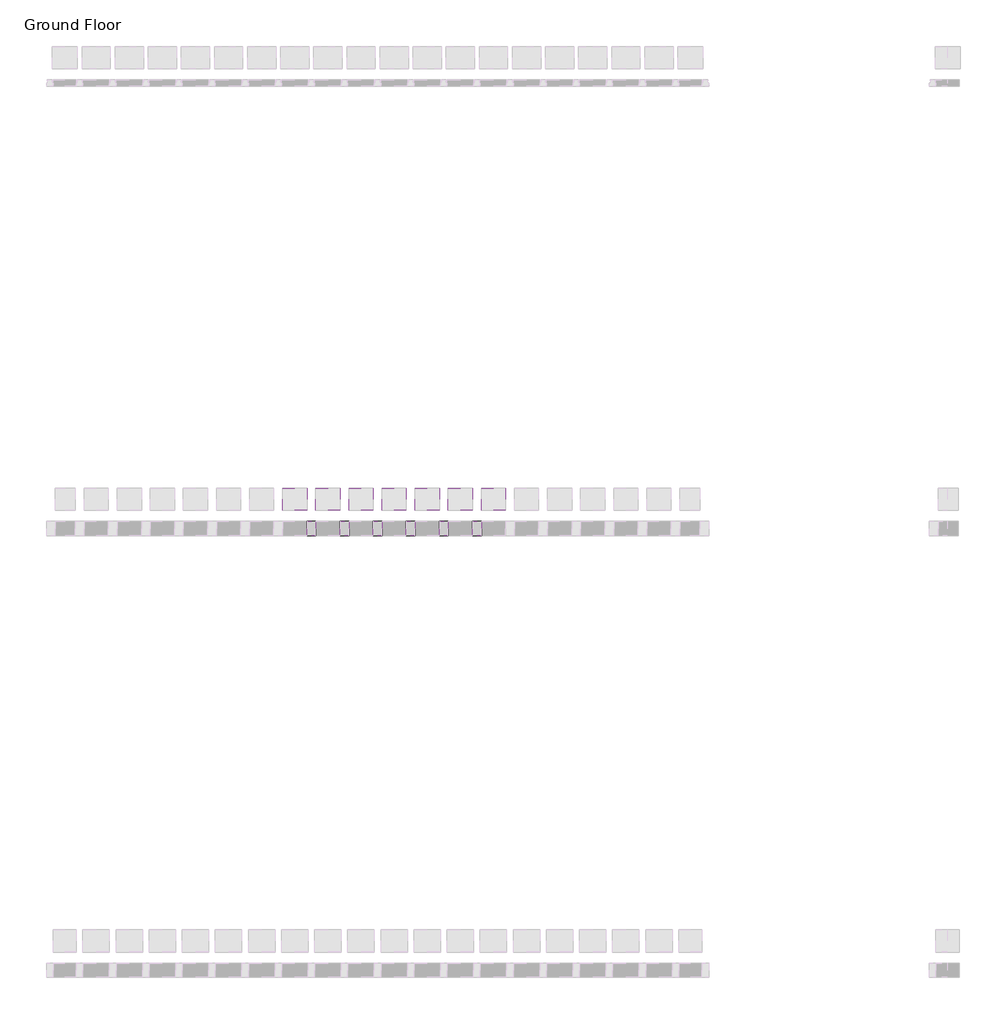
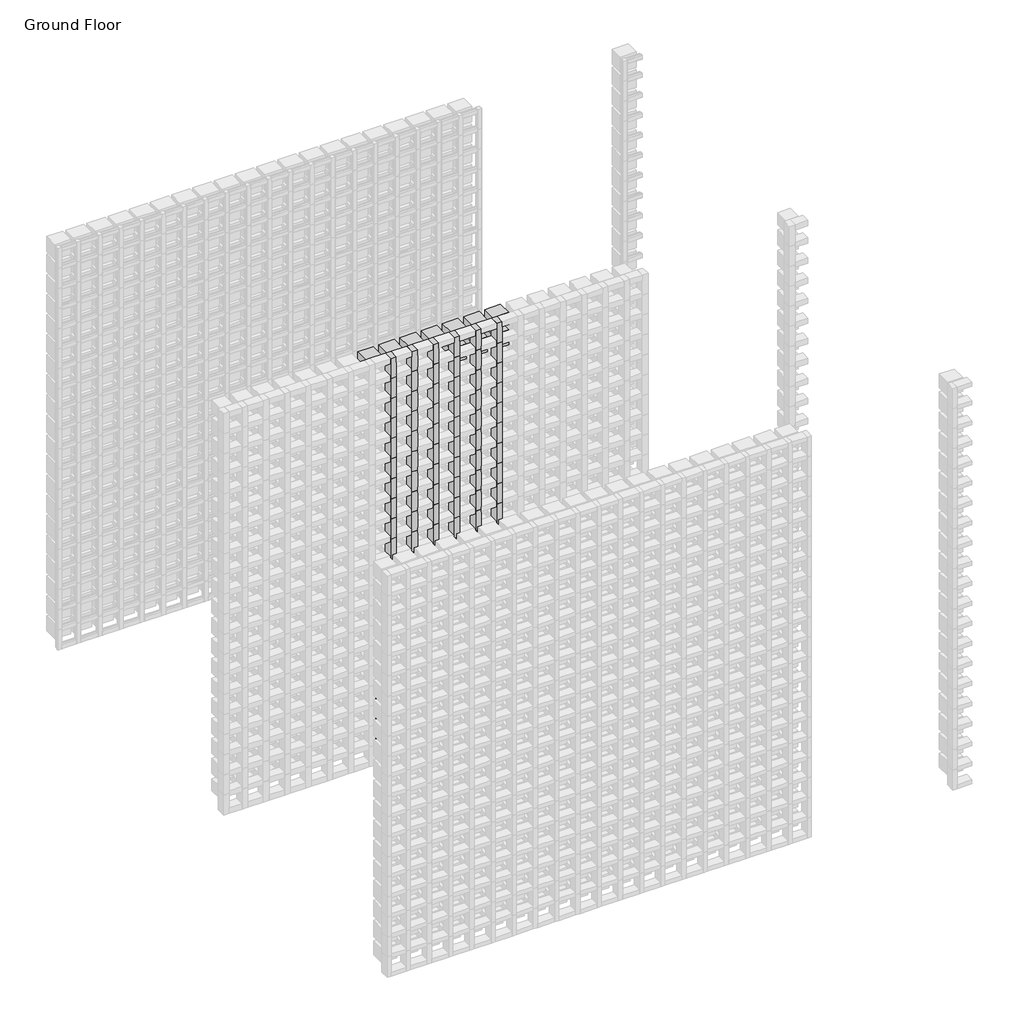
# One storey, part 148 of 350: 134 members, 10 plates.
"""IFC4 building model written with IfcOpenShell, lengths in millimetres."""

from ifc_helpers import new_model, si_unit, origin, place, context, project, spatial, transform, mapped, element, save
from components import rectangular_mullion_655930e9, rectangular_mullion_97e353d0, empty_system_panel_empty_3b500fad, empty_system_panel_empty_1faefc6a

model = new_model("IFC4")

# Units and contexts
model_context = context("Model", 3, world=origin())
ifc_project = project(units=[si_unit("LENGTHUNIT", "METRE", prefix="MILLI")], contexts=[model_context])

# Site, building, storey
site = spatial("IfcSite", under=ifc_project)
building = spatial("IfcBuilding", under=site)
storey = spatial("IfcBuildingStorey", under=building, Name="Ground Floor", Elevation=0.0)

# Members
placement = place(None, origin())
rectangular_mullion_shape = rectangular_mullion_655930e9(model_context)
element("IfcMember", 1, ObjectType="Rectangular Mullion : Batten_Timber_Modinex_Austratus_Grid_Fascia_40x65_Ironbark", at=placement, inside=storey, context=model_context, shape_type="MappedRepresentation", body=[
    mapped(rectangular_mullion_shape, transform((15116.4361642, 40968.2978302, 150.0), x_axis=(1.0, 0.0, 0.0), y_axis=(0.0, -1.0, 0.0), z_axis=(0.0, 0.0, -1.0))),
])
element("IfcMember", 2, ObjectType="Rectangular Mullion : Batten_Timber_Modinex_Austratus_Grid_Fascia_40x65_Ironbark", at=placement, inside=storey, context=model_context, shape_type="MappedRepresentation", body=[
    mapped(rectangular_mullion_shape, transform((15116.4361642, 40968.2978302, 300.0), x_axis=(1.0, 0.0, 0.0), y_axis=(0.0, -1.0, 0.0), z_axis=(0.0, 0.0, -1.0))),
])
element("IfcMember", 3, ObjectType="Rectangular Mullion : Batten_Timber_Modinex_Austratus_Grid_Fascia_40x65_Ironbark", at=placement, inside=storey, context=model_context, shape_type="MappedRepresentation", body=[
    mapped(rectangular_mullion_shape, transform((15116.4361642, 40968.2978302, 450.0), x_axis=(1.0, 0.0, 0.0), y_axis=(0.0, -1.0, 0.0), z_axis=(0.0, 0.0, -1.0))),
])
element("IfcMember", 4, ObjectType="Rectangular Mullion : Batten_Timber_Modinex_Austratus_Grid_Fascia_40x65_Ironbark", at=placement, inside=storey, context=model_context, shape_type="MappedRepresentation", body=[
    mapped(rectangular_mullion_shape, transform((15116.4361642, 40968.2978302, 600.0), x_axis=(1.0, 0.0, 0.0), y_axis=(0.0, -1.0, 0.0), z_axis=(0.0, 0.0, -1.0))),
])
element("IfcMember", 5, ObjectType="Rectangular Mullion : Batten_Timber_Modinex_Austratus_Grid_Fascia_40x65_Ironbark", at=placement, inside=storey, context=model_context, shape_type="MappedRepresentation", body=[
    mapped(rectangular_mullion_shape, transform((15116.4361642, 40968.2978302, 750.0), x_axis=(1.0, 0.0, 0.0), y_axis=(0.0, -1.0, 0.0), z_axis=(0.0, 0.0, -1.0))),
])
element("IfcMember", 6, ObjectType="Rectangular Mullion : Batten_Timber_Modinex_Austratus_Grid_Fascia_40x65_Ironbark", at=placement, inside=storey, context=model_context, shape_type="MappedRepresentation", body=[
    mapped(rectangular_mullion_shape, transform((15116.4361642, 40968.2978302, 900.0), x_axis=(1.0, 0.0, 0.0), y_axis=(0.0, -1.0, 0.0), z_axis=(0.0, 0.0, -1.0))),
])
element("IfcMember", 7, ObjectType="Rectangular Mullion : Batten_Timber_Modinex_Austratus_Grid_Fascia_40x65_Ironbark", at=placement, inside=storey, context=model_context, shape_type="MappedRepresentation", body=[
    mapped(rectangular_mullion_shape, transform((15116.4361642, 40968.2978302, 1050.0), x_axis=(1.0, 0.0, 0.0), y_axis=(0.0, -1.0, 0.0), z_axis=(0.0, 0.0, -1.0))),
])
element("IfcMember", 8, ObjectType="Rectangular Mullion : Batten_Timber_Modinex_Austratus_Grid_Fascia_40x65_Ironbark", at=placement, inside=storey, context=model_context, shape_type="MappedRepresentation", body=[
    mapped(rectangular_mullion_shape, transform((15116.4361642, 40968.2978302, 1200.0), x_axis=(1.0, 0.0, 0.0), y_axis=(0.0, -1.0, 0.0), z_axis=(0.0, 0.0, -1.0))),
])
element("IfcMember", 9, ObjectType="Rectangular Mullion : Batten_Timber_Modinex_Austratus_Grid_Fascia_40x65_Ironbark", at=placement, inside=storey, context=model_context, shape_type="MappedRepresentation", body=[
    mapped(rectangular_mullion_shape, transform((15116.4361642, 40968.2978302, 1350.0), x_axis=(1.0, 0.0, 0.0), y_axis=(0.0, -1.0, 0.0), z_axis=(0.0, 0.0, -1.0))),
])
element("IfcMember", 10, ObjectType="Rectangular Mullion : Batten_Timber_Modinex_Austratus_Grid_Fascia_40x65_Ironbark", at=placement, inside=storey, context=model_context, shape_type="MappedRepresentation", body=[
    mapped(rectangular_mullion_shape, transform((15116.4361642, 40968.2978302, 1500.0), x_axis=(1.0, 0.0, 0.0), y_axis=(0.0, -1.0, 0.0), z_axis=(0.0, 0.0, -1.0))),
])
element("IfcMember", 11, ObjectType="Rectangular Mullion : Batten_Timber_Modinex_Austratus_Grid_Fascia_40x65_Ironbark", at=placement, inside=storey, context=model_context, shape_type="MappedRepresentation", body=[
    mapped(rectangular_mullion_shape, transform((15116.4361642, 40968.2978302, 1650.0), x_axis=(1.0, 0.0, 0.0), y_axis=(0.0, -1.0, 0.0), z_axis=(0.0, 0.0, -1.0))),
])
element("IfcMember", 12, ObjectType="Rectangular Mullion : Batten_Timber_Modinex_Austratus_Grid_Fascia_40x65_Ironbark", at=placement, inside=storey, context=model_context, shape_type="MappedRepresentation", body=[
    mapped(rectangular_mullion_shape, transform((15116.4361642, 40968.2978302, 1800.0), x_axis=(1.0, 0.0, 0.0), y_axis=(0.0, -1.0, 0.0), z_axis=(0.0, 0.0, -1.0))),
])
element("IfcMember", 13, ObjectType="Rectangular Mullion : Batten_Timber_Modinex_Austratus_Grid_Fascia_40x65_Ironbark", at=placement, inside=storey, context=model_context, shape_type="MappedRepresentation", body=[
    mapped(rectangular_mullion_shape, transform((15116.4361642, 40968.2978302, 1950.0), x_axis=(1.0, 0.0, 0.0), y_axis=(0.0, -1.0, 0.0), z_axis=(0.0, 0.0, -1.0))),
])
element("IfcMember", 14, ObjectType="Rectangular Mullion : Batten_Timber_Modinex_Austratus_Grid_Fascia_40x65_Ironbark", at=placement, inside=storey, context=model_context, shape_type="MappedRepresentation", body=[
    mapped(rectangular_mullion_shape, transform((15116.4361642, 40968.2978302, 2100.0), x_axis=(1.0, 0.0, 0.0), y_axis=(0.0, -1.0, 0.0), z_axis=(0.0, 0.0, -1.0))),
])
element("IfcMember", 15, ObjectType="Rectangular Mullion : Batten_Timber_Modinex_Austratus_Grid_Fascia_40x65_Ironbark", at=placement, inside=storey, context=model_context, shape_type="MappedRepresentation", body=[
    mapped(rectangular_mullion_shape, transform((15116.4361642, 40968.2978302, 2250.0), x_axis=(1.0, 0.0, 0.0), y_axis=(0.0, -1.0, 0.0), z_axis=(0.0, 0.0, -1.0))),
])
element("IfcMember", 16, ObjectType="Rectangular Mullion : Batten_Timber_Modinex_Austratus_Grid_Fascia_40x65_Ironbark", at=placement, inside=storey, context=model_context, shape_type="MappedRepresentation", body=[
    mapped(rectangular_mullion_shape, transform((15116.4361642, 40968.2978302, 2400.0), x_axis=(1.0, 0.0, 0.0), y_axis=(0.0, -1.0, 0.0), z_axis=(0.0, 0.0, -1.0))),
])
element("IfcMember", 17, ObjectType="Rectangular Mullion : Batten_Timber_Modinex_Austratus_Grid_Fascia_40x65_Ironbark", at=placement, inside=storey, context=model_context, shape_type="MappedRepresentation", body=[
    mapped(rectangular_mullion_shape, transform((15116.4361642, 40968.2978302, 2550.0), x_axis=(1.0, 0.0, 0.0), y_axis=(0.0, -1.0, 0.0), z_axis=(0.0, 0.0, -1.0))),
])
element("IfcMember", 18, ObjectType="Rectangular Mullion : Batten_Timber_Modinex_Austratus_Grid_Fascia_40x65_Ironbark", at=placement, inside=storey, context=model_context, shape_type="MappedRepresentation", body=[
    mapped(rectangular_mullion_shape, transform((15116.4361642, 40968.2978302, 2700.0), x_axis=(1.0, 0.0, 0.0), y_axis=(0.0, -1.0, 0.0), z_axis=(0.0, 0.0, -1.0))),
])
element("IfcMember", 19, ObjectType="Rectangular Mullion : Batten_Timber_Modinex_Austratus_Grid_Fascia_40x65_Ironbark", at=placement, inside=storey, context=model_context, shape_type="MappedRepresentation", body=[
    mapped(rectangular_mullion_shape, transform((15266.4361642, 40968.2978302, 150.0), x_axis=(1.0, 0.0, 0.0), y_axis=(0.0, -1.0, 0.0), z_axis=(0.0, 0.0, -1.0))),
])
element("IfcMember", 20, ObjectType="Rectangular Mullion : Batten_Timber_Modinex_Austratus_Grid_Fascia_40x65_Ironbark", at=placement, inside=storey, context=model_context, shape_type="MappedRepresentation", body=[
    mapped(rectangular_mullion_shape, transform((15266.4361642, 40968.2978302, 300.0), x_axis=(1.0, 0.0, 0.0), y_axis=(0.0, -1.0, 0.0), z_axis=(0.0, 0.0, -1.0))),
])
element("IfcMember", 21, ObjectType="Rectangular Mullion : Batten_Timber_Modinex_Austratus_Grid_Fascia_40x65_Ironbark", at=placement, inside=storey, context=model_context, shape_type="MappedRepresentation", body=[
    mapped(rectangular_mullion_shape, transform((15266.4361642, 40968.2978302, 450.0), x_axis=(1.0, 0.0, 0.0), y_axis=(0.0, -1.0, 0.0), z_axis=(0.0, 0.0, -1.0))),
])
element("IfcMember", 22, ObjectType="Rectangular Mullion : Batten_Timber_Modinex_Austratus_Grid_Fascia_40x65_Ironbark", at=placement, inside=storey, context=model_context, shape_type="MappedRepresentation", body=[
    mapped(rectangular_mullion_shape, transform((15266.4361642, 40968.2978302, 600.0), x_axis=(1.0, 0.0, 0.0), y_axis=(0.0, -1.0, 0.0), z_axis=(0.0, 0.0, -1.0))),
])
element("IfcMember", 23, ObjectType="Rectangular Mullion : Batten_Timber_Modinex_Austratus_Grid_Fascia_40x65_Ironbark", at=placement, inside=storey, context=model_context, shape_type="MappedRepresentation", body=[
    mapped(rectangular_mullion_shape, transform((15266.4361642, 40968.2978302, 750.0), x_axis=(1.0, 0.0, 0.0), y_axis=(0.0, -1.0, 0.0), z_axis=(0.0, 0.0, -1.0))),
])
element("IfcMember", 24, ObjectType="Rectangular Mullion : Batten_Timber_Modinex_Austratus_Grid_Fascia_40x65_Ironbark", at=placement, inside=storey, context=model_context, shape_type="MappedRepresentation", body=[
    mapped(rectangular_mullion_shape, transform((15266.4361642, 40968.2978302, 900.0), x_axis=(1.0, 0.0, 0.0), y_axis=(0.0, -1.0, 0.0), z_axis=(0.0, 0.0, -1.0))),
])
element("IfcMember", 25, ObjectType="Rectangular Mullion : Batten_Timber_Modinex_Austratus_Grid_Fascia_40x65_Ironbark", at=placement, inside=storey, context=model_context, shape_type="MappedRepresentation", body=[
    mapped(rectangular_mullion_shape, transform((15266.4361642, 40968.2978302, 1050.0), x_axis=(1.0, 0.0, 0.0), y_axis=(0.0, -1.0, 0.0), z_axis=(0.0, 0.0, -1.0))),
])
element("IfcMember", 26, ObjectType="Rectangular Mullion : Batten_Timber_Modinex_Austratus_Grid_Fascia_40x65_Ironbark", at=placement, inside=storey, context=model_context, shape_type="MappedRepresentation", body=[
    mapped(rectangular_mullion_shape, transform((15266.4361642, 40968.2978302, 1200.0), x_axis=(1.0, 0.0, 0.0), y_axis=(0.0, -1.0, 0.0), z_axis=(0.0, 0.0, -1.0))),
])
element("IfcMember", 27, ObjectType="Rectangular Mullion : Batten_Timber_Modinex_Austratus_Grid_Fascia_40x65_Ironbark", at=placement, inside=storey, context=model_context, shape_type="MappedRepresentation", body=[
    mapped(rectangular_mullion_shape, transform((15266.4361642, 40968.2978302, 1350.0), x_axis=(1.0, 0.0, 0.0), y_axis=(0.0, -1.0, 0.0), z_axis=(0.0, 0.0, -1.0))),
])
element("IfcMember", 28, ObjectType="Rectangular Mullion : Batten_Timber_Modinex_Austratus_Grid_Fascia_40x65_Ironbark", at=placement, inside=storey, context=model_context, shape_type="MappedRepresentation", body=[
    mapped(rectangular_mullion_shape, transform((15266.4361642, 40968.2978302, 1500.0), x_axis=(1.0, 0.0, 0.0), y_axis=(0.0, -1.0, 0.0), z_axis=(0.0, 0.0, -1.0))),
])
element("IfcMember", 29, ObjectType="Rectangular Mullion : Batten_Timber_Modinex_Austratus_Grid_Fascia_40x65_Ironbark", at=placement, inside=storey, context=model_context, shape_type="MappedRepresentation", body=[
    mapped(rectangular_mullion_shape, transform((15266.4361642, 40968.2978302, 1650.0), x_axis=(1.0, 0.0, 0.0), y_axis=(0.0, -1.0, 0.0), z_axis=(0.0, 0.0, -1.0))),
])
element("IfcMember", 30, ObjectType="Rectangular Mullion : Batten_Timber_Modinex_Austratus_Grid_Fascia_40x65_Ironbark", at=placement, inside=storey, context=model_context, shape_type="MappedRepresentation", body=[
    mapped(rectangular_mullion_shape, transform((15266.4361642, 40968.2978302, 1800.0), x_axis=(1.0, 0.0, 0.0), y_axis=(0.0, -1.0, 0.0), z_axis=(0.0, 0.0, -1.0))),
])
element("IfcMember", 31, ObjectType="Rectangular Mullion : Batten_Timber_Modinex_Austratus_Grid_Fascia_40x65_Ironbark", at=placement, inside=storey, context=model_context, shape_type="MappedRepresentation", body=[
    mapped(rectangular_mullion_shape, transform((15266.4361642, 40968.2978302, 1950.0), x_axis=(1.0, 0.0, 0.0), y_axis=(0.0, -1.0, 0.0), z_axis=(0.0, 0.0, -1.0))),
])
element("IfcMember", 32, ObjectType="Rectangular Mullion : Batten_Timber_Modinex_Austratus_Grid_Fascia_40x65_Ironbark", at=placement, inside=storey, context=model_context, shape_type="MappedRepresentation", body=[
    mapped(rectangular_mullion_shape, transform((15266.4361642, 40968.2978302, 2100.0), x_axis=(1.0, 0.0, 0.0), y_axis=(0.0, -1.0, 0.0), z_axis=(0.0, 0.0, -1.0))),
])
element("IfcMember", 33, ObjectType="Rectangular Mullion : Batten_Timber_Modinex_Austratus_Grid_Fascia_40x65_Ironbark", at=placement, inside=storey, context=model_context, shape_type="MappedRepresentation", body=[
    mapped(rectangular_mullion_shape, transform((15266.4361642, 40968.2978302, 2250.0), x_axis=(1.0, 0.0, 0.0), y_axis=(0.0, -1.0, 0.0), z_axis=(0.0, 0.0, -1.0))),
])
element("IfcMember", 34, ObjectType="Rectangular Mullion : Batten_Timber_Modinex_Austratus_Grid_Fascia_40x65_Ironbark", at=placement, inside=storey, context=model_context, shape_type="MappedRepresentation", body=[
    mapped(rectangular_mullion_shape, transform((15266.4361642, 40968.2978302, 2400.0), x_axis=(1.0, 0.0, 0.0), y_axis=(0.0, -1.0, 0.0), z_axis=(0.0, 0.0, -1.0))),
])
element("IfcMember", 35, ObjectType="Rectangular Mullion : Batten_Timber_Modinex_Austratus_Grid_Fascia_40x65_Ironbark", at=placement, inside=storey, context=model_context, shape_type="MappedRepresentation", body=[
    mapped(rectangular_mullion_shape, transform((15266.4361642, 40968.2978302, 2550.0), x_axis=(1.0, 0.0, 0.0), y_axis=(0.0, -1.0, 0.0), z_axis=(0.0, 0.0, -1.0))),
])
element("IfcMember", 36, ObjectType="Rectangular Mullion : Batten_Timber_Modinex_Austratus_Grid_Fascia_40x65_Ironbark", at=placement, inside=storey, context=model_context, shape_type="MappedRepresentation", body=[
    mapped(rectangular_mullion_shape, transform((15266.4361642, 40968.2978302, 2700.0), x_axis=(1.0, 0.0, 0.0), y_axis=(0.0, -1.0, 0.0), z_axis=(0.0, 0.0, -1.0))),
])
element("IfcMember", 37, ObjectType="Rectangular Mullion : Batten_Timber_Modinex_Austratus_Grid_Fascia_40x65_Ironbark", at=placement, inside=storey, context=model_context, shape_type="MappedRepresentation", body=[
    mapped(rectangular_mullion_shape, transform((15416.4361642, 40968.2978302, 150.0), x_axis=(1.0, 0.0, 0.0), y_axis=(0.0, -1.0, 0.0), z_axis=(0.0, 0.0, -1.0))),
])
element("IfcMember", 38, ObjectType="Rectangular Mullion : Batten_Timber_Modinex_Austratus_Grid_Fascia_40x65_Ironbark", at=placement, inside=storey, context=model_context, shape_type="MappedRepresentation", body=[
    mapped(rectangular_mullion_shape, transform((15416.4361642, 40968.2978302, 300.0), x_axis=(1.0, 0.0, 0.0), y_axis=(0.0, -1.0, 0.0), z_axis=(0.0, 0.0, -1.0))),
])
element("IfcMember", 39, ObjectType="Rectangular Mullion : Batten_Timber_Modinex_Austratus_Grid_Fascia_40x65_Ironbark", at=placement, inside=storey, context=model_context, shape_type="MappedRepresentation", body=[
    mapped(rectangular_mullion_shape, transform((15416.4361642, 40968.2978302, 450.0), x_axis=(1.0, 0.0, 0.0), y_axis=(0.0, -1.0, 0.0), z_axis=(0.0, 0.0, -1.0))),
])
element("IfcMember", 40, ObjectType="Rectangular Mullion : Batten_Timber_Modinex_Austratus_Grid_Fascia_40x65_Ironbark", at=placement, inside=storey, context=model_context, shape_type="MappedRepresentation", body=[
    mapped(rectangular_mullion_shape, transform((15416.4361642, 40968.2978302, 600.0), x_axis=(1.0, 0.0, 0.0), y_axis=(0.0, -1.0, 0.0), z_axis=(0.0, 0.0, -1.0))),
])
element("IfcMember", 41, ObjectType="Rectangular Mullion : Batten_Timber_Modinex_Austratus_Grid_Fascia_40x65_Ironbark", at=placement, inside=storey, context=model_context, shape_type="MappedRepresentation", body=[
    mapped(rectangular_mullion_shape, transform((15416.4361642, 40968.2978302, 750.0), x_axis=(1.0, 0.0, 0.0), y_axis=(0.0, -1.0, 0.0), z_axis=(0.0, 0.0, -1.0))),
])
element("IfcMember", 42, ObjectType="Rectangular Mullion : Batten_Timber_Modinex_Austratus_Grid_Fascia_40x65_Ironbark", at=placement, inside=storey, context=model_context, shape_type="MappedRepresentation", body=[
    mapped(rectangular_mullion_shape, transform((15416.4361642, 40968.2978302, 900.0), x_axis=(1.0, 0.0, 0.0), y_axis=(0.0, -1.0, 0.0), z_axis=(0.0, 0.0, -1.0))),
])
element("IfcMember", 43, ObjectType="Rectangular Mullion : Batten_Timber_Modinex_Austratus_Grid_Fascia_40x65_Ironbark", at=placement, inside=storey, context=model_context, shape_type="MappedRepresentation", body=[
    mapped(rectangular_mullion_shape, transform((15416.4361642, 40968.2978302, 1050.0), x_axis=(1.0, 0.0, 0.0), y_axis=(0.0, -1.0, 0.0), z_axis=(0.0, 0.0, -1.0))),
])
element("IfcMember", 44, ObjectType="Rectangular Mullion : Batten_Timber_Modinex_Austratus_Grid_Fascia_40x65_Ironbark", at=placement, inside=storey, context=model_context, shape_type="MappedRepresentation", body=[
    mapped(rectangular_mullion_shape, transform((15416.4361642, 40968.2978302, 1200.0), x_axis=(1.0, 0.0, 0.0), y_axis=(0.0, -1.0, 0.0), z_axis=(0.0, 0.0, -1.0))),
])
element("IfcMember", 45, ObjectType="Rectangular Mullion : Batten_Timber_Modinex_Austratus_Grid_Fascia_40x65_Ironbark", at=placement, inside=storey, context=model_context, shape_type="MappedRepresentation", body=[
    mapped(rectangular_mullion_shape, transform((15416.4361642, 40968.2978302, 1350.0), x_axis=(1.0, 0.0, 0.0), y_axis=(0.0, -1.0, 0.0), z_axis=(0.0, 0.0, -1.0))),
])
element("IfcMember", 46, ObjectType="Rectangular Mullion : Batten_Timber_Modinex_Austratus_Grid_Fascia_40x65_Ironbark", at=placement, inside=storey, context=model_context, shape_type="MappedRepresentation", body=[
    mapped(rectangular_mullion_shape, transform((15416.4361642, 40968.2978302, 1500.0), x_axis=(1.0, 0.0, 0.0), y_axis=(0.0, -1.0, 0.0), z_axis=(0.0, 0.0, -1.0))),
])
element("IfcMember", 47, ObjectType="Rectangular Mullion : Batten_Timber_Modinex_Austratus_Grid_Fascia_40x65_Ironbark", at=placement, inside=storey, context=model_context, shape_type="MappedRepresentation", body=[
    mapped(rectangular_mullion_shape, transform((15416.4361642, 40968.2978302, 1650.0), x_axis=(1.0, 0.0, 0.0), y_axis=(0.0, -1.0, 0.0), z_axis=(0.0, 0.0, -1.0))),
])
element("IfcMember", 48, ObjectType="Rectangular Mullion : Batten_Timber_Modinex_Austratus_Grid_Fascia_40x65_Ironbark", at=placement, inside=storey, context=model_context, shape_type="MappedRepresentation", body=[
    mapped(rectangular_mullion_shape, transform((15416.4361642, 40968.2978302, 1800.0), x_axis=(1.0, 0.0, 0.0), y_axis=(0.0, -1.0, 0.0), z_axis=(0.0, 0.0, -1.0))),
])
element("IfcMember", 49, ObjectType="Rectangular Mullion : Batten_Timber_Modinex_Austratus_Grid_Fascia_40x65_Ironbark", at=placement, inside=storey, context=model_context, shape_type="MappedRepresentation", body=[
    mapped(rectangular_mullion_shape, transform((15416.4361642, 40968.2978302, 1950.0), x_axis=(1.0, 0.0, 0.0), y_axis=(0.0, -1.0, 0.0), z_axis=(0.0, 0.0, -1.0))),
])
element("IfcMember", 50, ObjectType="Rectangular Mullion : Batten_Timber_Modinex_Austratus_Grid_Fascia_40x65_Ironbark", at=placement, inside=storey, context=model_context, shape_type="MappedRepresentation", body=[
    mapped(rectangular_mullion_shape, transform((15416.4361642, 40968.2978302, 2100.0), x_axis=(1.0, 0.0, 0.0), y_axis=(0.0, -1.0, 0.0), z_axis=(0.0, 0.0, -1.0))),
])
element("IfcMember", 51, ObjectType="Rectangular Mullion : Batten_Timber_Modinex_Austratus_Grid_Fascia_40x65_Ironbark", at=placement, inside=storey, context=model_context, shape_type="MappedRepresentation", body=[
    mapped(rectangular_mullion_shape, transform((15416.4361642, 40968.2978302, 2250.0), x_axis=(1.0, 0.0, 0.0), y_axis=(0.0, -1.0, 0.0), z_axis=(0.0, 0.0, -1.0))),
])
element("IfcMember", 52, ObjectType="Rectangular Mullion : Batten_Timber_Modinex_Austratus_Grid_Fascia_40x65_Ironbark", at=placement, inside=storey, context=model_context, shape_type="MappedRepresentation", body=[
    mapped(rectangular_mullion_shape, transform((15416.4361642, 40968.2978302, 2400.0), x_axis=(1.0, 0.0, 0.0), y_axis=(0.0, -1.0, 0.0), z_axis=(0.0, 0.0, -1.0))),
])
element("IfcMember", 53, ObjectType="Rectangular Mullion : Batten_Timber_Modinex_Austratus_Grid_Fascia_40x65_Ironbark", at=placement, inside=storey, context=model_context, shape_type="MappedRepresentation", body=[
    mapped(rectangular_mullion_shape, transform((15416.4361642, 40968.2978302, 2550.0), x_axis=(1.0, 0.0, 0.0), y_axis=(0.0, -1.0, 0.0), z_axis=(0.0, 0.0, -1.0))),
])
element("IfcMember", 54, ObjectType="Rectangular Mullion : Batten_Timber_Modinex_Austratus_Grid_Fascia_40x65_Ironbark", at=placement, inside=storey, context=model_context, shape_type="MappedRepresentation", body=[
    mapped(rectangular_mullion_shape, transform((15416.4361642, 40968.2978302, 2700.0), x_axis=(1.0, 0.0, 0.0), y_axis=(0.0, -1.0, 0.0), z_axis=(0.0, 0.0, -1.0))),
])
element("IfcMember", 55, ObjectType="Rectangular Mullion : Batten_Timber_Modinex_Austratus_Grid_Fascia_40x65_Ironbark", at=placement, inside=storey, context=model_context, shape_type="MappedRepresentation", body=[
    mapped(rectangular_mullion_shape, transform((15566.4361642, 40968.2978302, 150.0), x_axis=(1.0, 0.0, 0.0), y_axis=(0.0, -1.0, 0.0), z_axis=(0.0, 0.0, -1.0))),
])
element("IfcMember", 56, ObjectType="Rectangular Mullion : Batten_Timber_Modinex_Austratus_Grid_Fascia_40x65_Ironbark", at=placement, inside=storey, context=model_context, shape_type="MappedRepresentation", body=[
    mapped(rectangular_mullion_shape, transform((15566.4361642, 40968.2978302, 300.0), x_axis=(1.0, 0.0, 0.0), y_axis=(0.0, -1.0, 0.0), z_axis=(0.0, 0.0, -1.0))),
])
element("IfcMember", 57, ObjectType="Rectangular Mullion : Batten_Timber_Modinex_Austratus_Grid_Fascia_40x65_Ironbark", at=placement, inside=storey, context=model_context, shape_type="MappedRepresentation", body=[
    mapped(rectangular_mullion_shape, transform((15566.4361642, 40968.2978302, 450.0), x_axis=(1.0, 0.0, 0.0), y_axis=(0.0, -1.0, 0.0), z_axis=(0.0, 0.0, -1.0))),
])
element("IfcMember", 58, ObjectType="Rectangular Mullion : Batten_Timber_Modinex_Austratus_Grid_Fascia_40x65_Ironbark", at=placement, inside=storey, context=model_context, shape_type="MappedRepresentation", body=[
    mapped(rectangular_mullion_shape, transform((15566.4361642, 40968.2978302, 600.0), x_axis=(1.0, 0.0, 0.0), y_axis=(0.0, -1.0, 0.0), z_axis=(0.0, 0.0, -1.0))),
])
element("IfcMember", 59, ObjectType="Rectangular Mullion : Batten_Timber_Modinex_Austratus_Grid_Fascia_40x65_Ironbark", at=placement, inside=storey, context=model_context, shape_type="MappedRepresentation", body=[
    mapped(rectangular_mullion_shape, transform((15566.4361642, 40968.2978302, 750.0), x_axis=(1.0, 0.0, 0.0), y_axis=(0.0, -1.0, 0.0), z_axis=(0.0, 0.0, -1.0))),
])
element("IfcMember", 60, ObjectType="Rectangular Mullion : Batten_Timber_Modinex_Austratus_Grid_Fascia_40x65_Ironbark", at=placement, inside=storey, context=model_context, shape_type="MappedRepresentation", body=[
    mapped(rectangular_mullion_shape, transform((15566.4361642, 40968.2978302, 900.0), x_axis=(1.0, 0.0, 0.0), y_axis=(0.0, -1.0, 0.0), z_axis=(0.0, 0.0, -1.0))),
])
element("IfcMember", 61, ObjectType="Rectangular Mullion : Batten_Timber_Modinex_Austratus_Grid_Fascia_40x65_Ironbark", at=placement, inside=storey, context=model_context, shape_type="MappedRepresentation", body=[
    mapped(rectangular_mullion_shape, transform((15566.4361642, 40968.2978302, 1050.0), x_axis=(1.0, 0.0, 0.0), y_axis=(0.0, -1.0, 0.0), z_axis=(0.0, 0.0, -1.0))),
])
element("IfcMember", 62, ObjectType="Rectangular Mullion : Batten_Timber_Modinex_Austratus_Grid_Fascia_40x65_Ironbark", at=placement, inside=storey, context=model_context, shape_type="MappedRepresentation", body=[
    mapped(rectangular_mullion_shape, transform((15566.4361642, 40968.2978302, 1200.0), x_axis=(1.0, 0.0, 0.0), y_axis=(0.0, -1.0, 0.0), z_axis=(0.0, 0.0, -1.0))),
])
element("IfcMember", 63, ObjectType="Rectangular Mullion : Batten_Timber_Modinex_Austratus_Grid_Fascia_40x65_Ironbark", at=placement, inside=storey, context=model_context, shape_type="MappedRepresentation", body=[
    mapped(rectangular_mullion_shape, transform((15566.4361642, 40968.2978302, 1350.0), x_axis=(1.0, 0.0, 0.0), y_axis=(0.0, -1.0, 0.0), z_axis=(0.0, 0.0, -1.0))),
])
element("IfcMember", 64, ObjectType="Rectangular Mullion : Batten_Timber_Modinex_Austratus_Grid_Fascia_40x65_Ironbark", at=placement, inside=storey, context=model_context, shape_type="MappedRepresentation", body=[
    mapped(rectangular_mullion_shape, transform((15566.4361642, 40968.2978302, 1500.0), x_axis=(1.0, 0.0, 0.0), y_axis=(0.0, -1.0, 0.0), z_axis=(0.0, 0.0, -1.0))),
])
element("IfcMember", 65, ObjectType="Rectangular Mullion : Batten_Timber_Modinex_Austratus_Grid_Fascia_40x65_Ironbark", at=placement, inside=storey, context=model_context, shape_type="MappedRepresentation", body=[
    mapped(rectangular_mullion_shape, transform((15566.4361642, 40968.2978302, 1650.0), x_axis=(1.0, 0.0, 0.0), y_axis=(0.0, -1.0, 0.0), z_axis=(0.0, 0.0, -1.0))),
])
element("IfcMember", 66, ObjectType="Rectangular Mullion : Batten_Timber_Modinex_Austratus_Grid_Fascia_40x65_Ironbark", at=placement, inside=storey, context=model_context, shape_type="MappedRepresentation", body=[
    mapped(rectangular_mullion_shape, transform((15566.4361642, 40968.2978302, 1800.0), x_axis=(1.0, 0.0, 0.0), y_axis=(0.0, -1.0, 0.0), z_axis=(0.0, 0.0, -1.0))),
])
element("IfcMember", 67, ObjectType="Rectangular Mullion : Batten_Timber_Modinex_Austratus_Grid_Fascia_40x65_Ironbark", at=placement, inside=storey, context=model_context, shape_type="MappedRepresentation", body=[
    mapped(rectangular_mullion_shape, transform((15566.4361642, 40968.2978302, 1950.0), x_axis=(1.0, 0.0, 0.0), y_axis=(0.0, -1.0, 0.0), z_axis=(0.0, 0.0, -1.0))),
])
element("IfcMember", 68, ObjectType="Rectangular Mullion : Batten_Timber_Modinex_Austratus_Grid_Fascia_40x65_Ironbark", at=placement, inside=storey, context=model_context, shape_type="MappedRepresentation", body=[
    mapped(rectangular_mullion_shape, transform((15566.4361642, 40968.2978302, 2100.0), x_axis=(1.0, 0.0, 0.0), y_axis=(0.0, -1.0, 0.0), z_axis=(0.0, 0.0, -1.0))),
])
element("IfcMember", 69, ObjectType="Rectangular Mullion : Batten_Timber_Modinex_Austratus_Grid_Fascia_40x65_Ironbark", at=placement, inside=storey, context=model_context, shape_type="MappedRepresentation", body=[
    mapped(rectangular_mullion_shape, transform((15566.4361642, 40968.2978302, 2250.0), x_axis=(1.0, 0.0, 0.0), y_axis=(0.0, -1.0, 0.0), z_axis=(0.0, 0.0, -1.0))),
])
element("IfcMember", 70, ObjectType="Rectangular Mullion : Batten_Timber_Modinex_Austratus_Grid_Fascia_40x65_Ironbark", at=placement, inside=storey, context=model_context, shape_type="MappedRepresentation", body=[
    mapped(rectangular_mullion_shape, transform((15566.4361642, 40968.2978302, 2400.0), x_axis=(1.0, 0.0, 0.0), y_axis=(0.0, -1.0, 0.0), z_axis=(0.0, 0.0, -1.0))),
])
element("IfcMember", 71, ObjectType="Rectangular Mullion : Batten_Timber_Modinex_Austratus_Grid_Fascia_40x65_Ironbark", at=placement, inside=storey, context=model_context, shape_type="MappedRepresentation", body=[
    mapped(rectangular_mullion_shape, transform((15566.4361642, 40968.2978302, 2550.0), x_axis=(1.0, 0.0, 0.0), y_axis=(0.0, -1.0, 0.0), z_axis=(0.0, 0.0, -1.0))),
])
element("IfcMember", 72, ObjectType="Rectangular Mullion : Batten_Timber_Modinex_Austratus_Grid_Fascia_40x65_Ironbark", at=placement, inside=storey, context=model_context, shape_type="MappedRepresentation", body=[
    mapped(rectangular_mullion_shape, transform((15566.4361642, 40968.2978302, 2700.0), x_axis=(1.0, 0.0, 0.0), y_axis=(0.0, -1.0, 0.0), z_axis=(0.0, 0.0, -1.0))),
])
element("IfcMember", 73, ObjectType="Rectangular Mullion : Batten_Timber_Modinex_Austratus_Grid_Fascia_40x65_Ironbark", at=placement, inside=storey, context=model_context, shape_type="MappedRepresentation", body=[
    mapped(rectangular_mullion_shape, transform((15716.4361642, 40968.2978302, 150.0), x_axis=(1.0, 0.0, 0.0), y_axis=(0.0, -1.0, 0.0), z_axis=(0.0, 0.0, -1.0))),
])
element("IfcMember", 74, ObjectType="Rectangular Mullion : Batten_Timber_Modinex_Austratus_Grid_Fascia_40x65_Ironbark", at=placement, inside=storey, context=model_context, shape_type="MappedRepresentation", body=[
    mapped(rectangular_mullion_shape, transform((15716.4361642, 40968.2978302, 300.0), x_axis=(1.0, 0.0, 0.0), y_axis=(0.0, -1.0, 0.0), z_axis=(0.0, 0.0, -1.0))),
])
element("IfcMember", 75, ObjectType="Rectangular Mullion : Batten_Timber_Modinex_Austratus_Grid_Fascia_40x65_Ironbark", at=placement, inside=storey, context=model_context, shape_type="MappedRepresentation", body=[
    mapped(rectangular_mullion_shape, transform((15716.4361642, 40968.2978302, 450.0), x_axis=(1.0, 0.0, 0.0), y_axis=(0.0, -1.0, 0.0), z_axis=(0.0, 0.0, -1.0))),
])
element("IfcMember", 76, ObjectType="Rectangular Mullion : Batten_Timber_Modinex_Austratus_Grid_Fascia_40x65_Ironbark", at=placement, inside=storey, context=model_context, shape_type="MappedRepresentation", body=[
    mapped(rectangular_mullion_shape, transform((15716.4361642, 40968.2978302, 600.0), x_axis=(1.0, 0.0, 0.0), y_axis=(0.0, -1.0, 0.0), z_axis=(0.0, 0.0, -1.0))),
])
element("IfcMember", 77, ObjectType="Rectangular Mullion : Batten_Timber_Modinex_Austratus_Grid_Fascia_40x65_Ironbark", at=placement, inside=storey, context=model_context, shape_type="MappedRepresentation", body=[
    mapped(rectangular_mullion_shape, transform((15716.4361642, 40968.2978302, 750.0), x_axis=(1.0, 0.0, 0.0), y_axis=(0.0, -1.0, 0.0), z_axis=(0.0, 0.0, -1.0))),
])
element("IfcMember", 78, ObjectType="Rectangular Mullion : Batten_Timber_Modinex_Austratus_Grid_Fascia_40x65_Ironbark", at=placement, inside=storey, context=model_context, shape_type="MappedRepresentation", body=[
    mapped(rectangular_mullion_shape, transform((15716.4361642, 40968.2978302, 900.0), x_axis=(1.0, 0.0, 0.0), y_axis=(0.0, -1.0, 0.0), z_axis=(0.0, 0.0, -1.0))),
])
element("IfcMember", 79, ObjectType="Rectangular Mullion : Batten_Timber_Modinex_Austratus_Grid_Fascia_40x65_Ironbark", at=placement, inside=storey, context=model_context, shape_type="MappedRepresentation", body=[
    mapped(rectangular_mullion_shape, transform((15716.4361642, 40968.2978302, 1050.0), x_axis=(1.0, 0.0, 0.0), y_axis=(0.0, -1.0, 0.0), z_axis=(0.0, 0.0, -1.0))),
])
element("IfcMember", 80, ObjectType="Rectangular Mullion : Batten_Timber_Modinex_Austratus_Grid_Fascia_40x65_Ironbark", at=placement, inside=storey, context=model_context, shape_type="MappedRepresentation", body=[
    mapped(rectangular_mullion_shape, transform((15716.4361642, 40968.2978302, 1200.0), x_axis=(1.0, 0.0, 0.0), y_axis=(0.0, -1.0, 0.0), z_axis=(0.0, 0.0, -1.0))),
])
element("IfcMember", 81, ObjectType="Rectangular Mullion : Batten_Timber_Modinex_Austratus_Grid_Fascia_40x65_Ironbark", at=placement, inside=storey, context=model_context, shape_type="MappedRepresentation", body=[
    mapped(rectangular_mullion_shape, transform((15716.4361642, 40968.2978302, 1350.0), x_axis=(1.0, 0.0, 0.0), y_axis=(0.0, -1.0, 0.0), z_axis=(0.0, 0.0, -1.0))),
])
element("IfcMember", 82, ObjectType="Rectangular Mullion : Batten_Timber_Modinex_Austratus_Grid_Fascia_40x65_Ironbark", at=placement, inside=storey, context=model_context, shape_type="MappedRepresentation", body=[
    mapped(rectangular_mullion_shape, transform((15716.4361642, 40968.2978302, 1500.0), x_axis=(1.0, 0.0, 0.0), y_axis=(0.0, -1.0, 0.0), z_axis=(0.0, 0.0, -1.0))),
])
element("IfcMember", 83, ObjectType="Rectangular Mullion : Batten_Timber_Modinex_Austratus_Grid_Fascia_40x65_Ironbark", at=placement, inside=storey, context=model_context, shape_type="MappedRepresentation", body=[
    mapped(rectangular_mullion_shape, transform((15716.4361642, 40968.2978302, 1650.0), x_axis=(1.0, 0.0, 0.0), y_axis=(0.0, -1.0, 0.0), z_axis=(0.0, 0.0, -1.0))),
])
element("IfcMember", 84, ObjectType="Rectangular Mullion : Batten_Timber_Modinex_Austratus_Grid_Fascia_40x65_Ironbark", at=placement, inside=storey, context=model_context, shape_type="MappedRepresentation", body=[
    mapped(rectangular_mullion_shape, transform((15716.4361642, 40968.2978302, 1800.0), x_axis=(1.0, 0.0, 0.0), y_axis=(0.0, -1.0, 0.0), z_axis=(0.0, 0.0, -1.0))),
])
element("IfcMember", 85, ObjectType="Rectangular Mullion : Batten_Timber_Modinex_Austratus_Grid_Fascia_40x65_Ironbark", at=placement, inside=storey, context=model_context, shape_type="MappedRepresentation", body=[
    mapped(rectangular_mullion_shape, transform((15716.4361642, 40968.2978302, 1950.0), x_axis=(1.0, 0.0, 0.0), y_axis=(0.0, -1.0, 0.0), z_axis=(0.0, 0.0, -1.0))),
])
element("IfcMember", 86, ObjectType="Rectangular Mullion : Batten_Timber_Modinex_Austratus_Grid_Fascia_40x65_Ironbark", at=placement, inside=storey, context=model_context, shape_type="MappedRepresentation", body=[
    mapped(rectangular_mullion_shape, transform((15716.4361642, 40968.2978302, 2100.0), x_axis=(1.0, 0.0, 0.0), y_axis=(0.0, -1.0, 0.0), z_axis=(0.0, 0.0, -1.0))),
])
element("IfcMember", 87, ObjectType="Rectangular Mullion : Batten_Timber_Modinex_Austratus_Grid_Fascia_40x65_Ironbark", at=placement, inside=storey, context=model_context, shape_type="MappedRepresentation", body=[
    mapped(rectangular_mullion_shape, transform((15716.4361642, 40968.2978302, 2250.0), x_axis=(1.0, 0.0, 0.0), y_axis=(0.0, -1.0, 0.0), z_axis=(0.0, 0.0, -1.0))),
])
element("IfcMember", 88, ObjectType="Rectangular Mullion : Batten_Timber_Modinex_Austratus_Grid_Fascia_40x65_Ironbark", at=placement, inside=storey, context=model_context, shape_type="MappedRepresentation", body=[
    mapped(rectangular_mullion_shape, transform((15716.4361642, 40968.2978302, 2400.0), x_axis=(1.0, 0.0, 0.0), y_axis=(0.0, -1.0, 0.0), z_axis=(0.0, 0.0, -1.0))),
])
element("IfcMember", 89, ObjectType="Rectangular Mullion : Batten_Timber_Modinex_Austratus_Grid_Fascia_40x65_Ironbark", at=placement, inside=storey, context=model_context, shape_type="MappedRepresentation", body=[
    mapped(rectangular_mullion_shape, transform((15716.4361642, 40968.2978302, 2550.0), x_axis=(1.0, 0.0, 0.0), y_axis=(0.0, -1.0, 0.0), z_axis=(0.0, 0.0, -1.0))),
])
element("IfcMember", 90, ObjectType="Rectangular Mullion : Batten_Timber_Modinex_Austratus_Grid_Fascia_40x65_Ironbark", at=placement, inside=storey, context=model_context, shape_type="MappedRepresentation", body=[
    mapped(rectangular_mullion_shape, transform((15716.4361642, 40968.2978302, 2700.0), x_axis=(1.0, 0.0, 0.0), y_axis=(0.0, -1.0, 0.0), z_axis=(0.0, 0.0, -1.0))),
])
element("IfcMember", 91, ObjectType="Rectangular Mullion : Batten_Timber_Modinex_Austratus_Grid_Fascia_40x65_Ironbark", at=placement, inside=storey, context=model_context, shape_type="MappedRepresentation", body=[
    mapped(rectangular_mullion_shape, transform((15866.4361642, 40968.2978302, 150.0), x_axis=(1.0, 0.0, 0.0), y_axis=(0.0, -1.0, 0.0), z_axis=(0.0, 0.0, -1.0))),
])
element("IfcMember", 92, ObjectType="Rectangular Mullion : Batten_Timber_Modinex_Austratus_Grid_Fascia_40x65_Ironbark", at=placement, inside=storey, context=model_context, shape_type="MappedRepresentation", body=[
    mapped(rectangular_mullion_shape, transform((15866.4361642, 40968.2978302, 300.0), x_axis=(1.0, 0.0, 0.0), y_axis=(0.0, -1.0, 0.0), z_axis=(0.0, 0.0, -1.0))),
])
element("IfcMember", 93, ObjectType="Rectangular Mullion : Batten_Timber_Modinex_Austratus_Grid_Fascia_40x65_Ironbark", at=placement, inside=storey, context=model_context, shape_type="MappedRepresentation", body=[
    mapped(rectangular_mullion_shape, transform((15866.4361642, 40968.2978302, 450.0), x_axis=(1.0, 0.0, 0.0), y_axis=(0.0, -1.0, 0.0), z_axis=(0.0, 0.0, -1.0))),
])
element("IfcMember", 94, ObjectType="Rectangular Mullion : Batten_Timber_Modinex_Austratus_Grid_Fascia_40x65_Ironbark", at=placement, inside=storey, context=model_context, shape_type="MappedRepresentation", body=[
    mapped(rectangular_mullion_shape, transform((15866.4361642, 40968.2978302, 600.0), x_axis=(1.0, 0.0, 0.0), y_axis=(0.0, -1.0, 0.0), z_axis=(0.0, 0.0, -1.0))),
])
element("IfcMember", 95, ObjectType="Rectangular Mullion : Batten_Timber_Modinex_Austratus_Grid_Fascia_40x65_Ironbark", at=placement, inside=storey, context=model_context, shape_type="MappedRepresentation", body=[
    mapped(rectangular_mullion_shape, transform((15866.4361642, 40968.2978302, 750.0), x_axis=(1.0, 0.0, 0.0), y_axis=(0.0, -1.0, 0.0), z_axis=(0.0, 0.0, -1.0))),
])
element("IfcMember", 96, ObjectType="Rectangular Mullion : Batten_Timber_Modinex_Austratus_Grid_Fascia_40x65_Ironbark", at=placement, inside=storey, context=model_context, shape_type="MappedRepresentation", body=[
    mapped(rectangular_mullion_shape, transform((15866.4361642, 40968.2978302, 900.0), x_axis=(1.0, 0.0, 0.0), y_axis=(0.0, -1.0, 0.0), z_axis=(0.0, 0.0, -1.0))),
])
element("IfcMember", 97, ObjectType="Rectangular Mullion : Batten_Timber_Modinex_Austratus_Grid_Fascia_40x65_Ironbark", at=placement, inside=storey, context=model_context, shape_type="MappedRepresentation", body=[
    mapped(rectangular_mullion_shape, transform((15866.4361642, 40968.2978302, 1050.0), x_axis=(1.0, 0.0, 0.0), y_axis=(0.0, -1.0, 0.0), z_axis=(0.0, 0.0, -1.0))),
])
element("IfcMember", 98, ObjectType="Rectangular Mullion : Batten_Timber_Modinex_Austratus_Grid_Fascia_40x65_Ironbark", at=placement, inside=storey, context=model_context, shape_type="MappedRepresentation", body=[
    mapped(rectangular_mullion_shape, transform((15866.4361642, 40968.2978302, 1200.0), x_axis=(1.0, 0.0, 0.0), y_axis=(0.0, -1.0, 0.0), z_axis=(0.0, 0.0, -1.0))),
])
element("IfcMember", 99, ObjectType="Rectangular Mullion : Batten_Timber_Modinex_Austratus_Grid_Fascia_40x65_Ironbark", at=placement, inside=storey, context=model_context, shape_type="MappedRepresentation", body=[
    mapped(rectangular_mullion_shape, transform((15866.4361642, 40968.2978302, 1350.0), x_axis=(1.0, 0.0, 0.0), y_axis=(0.0, -1.0, 0.0), z_axis=(0.0, 0.0, -1.0))),
])
element("IfcMember", 100, ObjectType="Rectangular Mullion : Batten_Timber_Modinex_Austratus_Grid_Fascia_40x65_Ironbark", at=placement, inside=storey, context=model_context, shape_type="MappedRepresentation", body=[
    mapped(rectangular_mullion_shape, transform((15866.4361642, 40968.2978302, 1500.0), x_axis=(1.0, 0.0, 0.0), y_axis=(0.0, -1.0, 0.0), z_axis=(0.0, 0.0, -1.0))),
])
element("IfcMember", 101, ObjectType="Rectangular Mullion : Batten_Timber_Modinex_Austratus_Grid_Fascia_40x65_Ironbark", at=placement, inside=storey, context=model_context, shape_type="MappedRepresentation", body=[
    mapped(rectangular_mullion_shape, transform((15866.4361642, 40968.2978302, 1650.0), x_axis=(1.0, 0.0, 0.0), y_axis=(0.0, -1.0, 0.0), z_axis=(0.0, 0.0, -1.0))),
])
element("IfcMember", 102, ObjectType="Rectangular Mullion : Batten_Timber_Modinex_Austratus_Grid_Fascia_40x65_Ironbark", at=placement, inside=storey, context=model_context, shape_type="MappedRepresentation", body=[
    mapped(rectangular_mullion_shape, transform((15866.4361642, 40968.2978302, 1800.0), x_axis=(1.0, 0.0, 0.0), y_axis=(0.0, -1.0, 0.0), z_axis=(0.0, 0.0, -1.0))),
])
element("IfcMember", 103, ObjectType="Rectangular Mullion : Batten_Timber_Modinex_Austratus_Grid_Fascia_40x65_Ironbark", at=placement, inside=storey, context=model_context, shape_type="MappedRepresentation", body=[
    mapped(rectangular_mullion_shape, transform((15866.4361642, 40968.2978302, 1950.0), x_axis=(1.0, 0.0, 0.0), y_axis=(0.0, -1.0, 0.0), z_axis=(0.0, 0.0, -1.0))),
])
element("IfcMember", 104, ObjectType="Rectangular Mullion : Batten_Timber_Modinex_Austratus_Grid_Fascia_40x65_Ironbark", at=placement, inside=storey, context=model_context, shape_type="MappedRepresentation", body=[
    mapped(rectangular_mullion_shape, transform((15866.4361642, 40968.2978302, 2100.0), x_axis=(1.0, 0.0, 0.0), y_axis=(0.0, -1.0, 0.0), z_axis=(0.0, 0.0, -1.0))),
])
element("IfcMember", 105, ObjectType="Rectangular Mullion : Batten_Timber_Modinex_Austratus_Grid_Fascia_40x65_Ironbark", at=placement, inside=storey, context=model_context, shape_type="MappedRepresentation", body=[
    mapped(rectangular_mullion_shape, transform((15866.4361642, 40968.2978302, 2250.0), x_axis=(1.0, 0.0, 0.0), y_axis=(0.0, -1.0, 0.0), z_axis=(0.0, 0.0, -1.0))),
])
element("IfcMember", 106, ObjectType="Rectangular Mullion : Batten_Timber_Modinex_Austratus_Grid_Fascia_40x65_Ironbark", at=placement, inside=storey, context=model_context, shape_type="MappedRepresentation", body=[
    mapped(rectangular_mullion_shape, transform((15866.4361642, 40968.2978302, 2400.0), x_axis=(1.0, 0.0, 0.0), y_axis=(0.0, -1.0, 0.0), z_axis=(0.0, 0.0, -1.0))),
])
element("IfcMember", 107, ObjectType="Rectangular Mullion : Batten_Timber_Modinex_Austratus_Grid_Fascia_40x65_Ironbark", at=placement, inside=storey, context=model_context, shape_type="MappedRepresentation", body=[
    mapped(rectangular_mullion_shape, transform((15866.4361642, 40968.2978302, 2550.0), x_axis=(1.0, 0.0, 0.0), y_axis=(0.0, -1.0, 0.0), z_axis=(0.0, 0.0, -1.0))),
])
element("IfcMember", 108, ObjectType="Rectangular Mullion : Batten_Timber_Modinex_Austratus_Grid_Fascia_40x65_Ironbark", at=placement, inside=storey, context=model_context, shape_type="MappedRepresentation", body=[
    mapped(rectangular_mullion_shape, transform((15866.4361642, 40968.2978302, 2700.0), x_axis=(1.0, 0.0, 0.0), y_axis=(0.0, -1.0, 0.0), z_axis=(0.0, 0.0, -1.0))),
])
element("IfcMember", 109, ObjectType="Rectangular Mullion : Batten_Timber_Modinex_Austratus_Grid_Fascia_40x65_Ironbark", at=placement, inside=storey, context=model_context, shape_type="MappedRepresentation", body=[
    mapped(rectangular_mullion_shape, transform((15116.4361642, 40968.2978302, 2850.0), x_axis=(1.0, 0.0, 0.0), y_axis=(0.0, -1.0, 0.0), z_axis=(0.0, 0.0, -1.0))),
])
element("IfcMember", 110, ObjectType="Rectangular Mullion : Batten_Timber_Modinex_Austratus_Grid_Fascia_40x65_Ironbark", at=placement, inside=storey, context=model_context, shape_type="MappedRepresentation", body=[
    mapped(rectangular_mullion_shape, transform((15266.4361642, 40968.2978302, 2850.0), x_axis=(1.0, 0.0, 0.0), y_axis=(0.0, -1.0, 0.0), z_axis=(0.0, 0.0, -1.0))),
])
element("IfcMember", 111, ObjectType="Rectangular Mullion : Batten_Timber_Modinex_Austratus_Grid_Fascia_40x65_Ironbark", at=placement, inside=storey, context=model_context, shape_type="MappedRepresentation", body=[
    mapped(rectangular_mullion_shape, transform((15416.4361642, 40968.2978302, 2850.0), x_axis=(1.0, 0.0, 0.0), y_axis=(0.0, -1.0, 0.0), z_axis=(0.0, 0.0, -1.0))),
])
element("IfcMember", 112, ObjectType="Rectangular Mullion : Batten_Timber_Modinex_Austratus_Grid_Fascia_40x65_Ironbark", at=placement, inside=storey, context=model_context, shape_type="MappedRepresentation", body=[
    mapped(rectangular_mullion_shape, transform((15566.4361642, 40968.2978302, 2850.0), x_axis=(1.0, 0.0, 0.0), y_axis=(0.0, -1.0, 0.0), z_axis=(0.0, 0.0, -1.0))),
])
element("IfcMember", 113, ObjectType="Rectangular Mullion : Batten_Timber_Modinex_Austratus_Grid_Fascia_40x65_Ironbark", at=placement, inside=storey, context=model_context, shape_type="MappedRepresentation", body=[
    mapped(rectangular_mullion_shape, transform((15716.4361642, 40968.2978302, 2850.0), x_axis=(1.0, 0.0, 0.0), y_axis=(0.0, -1.0, 0.0), z_axis=(0.0, 0.0, -1.0))),
])
element("IfcMember", 114, ObjectType="Rectangular Mullion : Batten_Timber_Modinex_Austratus_Grid_Fascia_40x65_Ironbark", at=placement, inside=storey, context=model_context, shape_type="MappedRepresentation", body=[
    mapped(rectangular_mullion_shape, transform((15866.4361642, 40968.2978302, 2850.0), x_axis=(1.0, 0.0, 0.0), y_axis=(0.0, -1.0, 0.0), z_axis=(0.0, 0.0, -1.0))),
])
rectangular_mullion_2_shape = rectangular_mullion_97e353d0(model_context)
element("IfcMember", 115, ObjectType="Rectangular Mullion : Batten_Timber_Modinex_Austratus_Grid_Fascia_40x65_Ironbark", at=placement, inside=storey, context=model_context, shape_type="MappedRepresentation", body=[
    mapped(rectangular_mullion_2_shape, transform((15096.4361642, 40968.2978302, 150.0), x_axis=(0.0, 0.0, 1.0), y_axis=(0.0, -1.0, 0.0), z_axis=(1.0, 0.0, 0.0))),
])
element("IfcMember", 116, ObjectType="Rectangular Mullion : Batten_Timber_Modinex_Austratus_Grid_Fascia_40x65_Ironbark", at=placement, inside=storey, context=model_context, shape_type="MappedRepresentation", body=[
    mapped(rectangular_mullion_2_shape, transform((15246.4361642, 40968.2978302, 150.0), x_axis=(0.0, 0.0, 1.0), y_axis=(0.0, -1.0, 0.0), z_axis=(1.0, 0.0, 0.0))),
])
element("IfcMember", 117, ObjectType="Rectangular Mullion : Batten_Timber_Modinex_Austratus_Grid_Fascia_40x65_Ironbark", at=placement, inside=storey, context=model_context, shape_type="MappedRepresentation", body=[
    mapped(rectangular_mullion_2_shape, transform((15396.4361642, 40968.2978302, 150.0), x_axis=(0.0, 0.0, 1.0), y_axis=(0.0, -1.0, 0.0), z_axis=(1.0, 0.0, 0.0))),
])
element("IfcMember", 118, ObjectType="Rectangular Mullion : Batten_Timber_Modinex_Austratus_Grid_Fascia_40x65_Ironbark", at=placement, inside=storey, context=model_context, shape_type="MappedRepresentation", body=[
    mapped(rectangular_mullion_2_shape, transform((15546.4361642, 40968.2978302, 150.0), x_axis=(0.0, 0.0, 1.0), y_axis=(0.0, -1.0, 0.0), z_axis=(1.0, 0.0, 0.0))),
])
element("IfcMember", 119, ObjectType="Rectangular Mullion : Batten_Timber_Modinex_Austratus_Grid_Fascia_40x65_Ironbark", at=placement, inside=storey, context=model_context, shape_type="MappedRepresentation", body=[
    mapped(rectangular_mullion_2_shape, transform((15696.4361642, 40968.2978302, 150.0), x_axis=(0.0, 0.0, 1.0), y_axis=(0.0, -1.0, 0.0), z_axis=(1.0, 0.0, 0.0))),
])
element("IfcMember", 120, ObjectType="Rectangular Mullion : Batten_Timber_Modinex_Austratus_Grid_Fascia_40x65_Ironbark", at=placement, inside=storey, context=model_context, shape_type="MappedRepresentation", body=[
    mapped(rectangular_mullion_2_shape, transform((15846.4361642, 40968.2978302, 150.0), x_axis=(0.0, 0.0, 1.0), y_axis=(0.0, -1.0, 0.0), z_axis=(1.0, 0.0, 0.0))),
])
element("IfcMember", 121, ObjectType="Rectangular Mullion : Batten_Timber_Modinex_Austratus_Grid_Fascia_40x65_Ironbark", at=placement, inside=storey, context=model_context, shape_type="MappedRepresentation", body=[
    mapped(rectangular_mullion_2_shape, transform((15996.4361642, 40968.2978302, 150.0), x_axis=(0.0, 0.0, 1.0), y_axis=(0.0, -1.0, 0.0), z_axis=(1.0, 0.0, 0.0))),
])
element("IfcMember", 122, ObjectType="Rectangular Mullion : Batten_Timber_Modinex_Austratus_Grid_Fascia_40x65_Ironbark", at=placement, inside=storey, context=model_context, shape_type="MappedRepresentation", body=[
    mapped(rectangular_mullion_2_shape, transform((15096.4361642, 40968.2978302, 300.0), x_axis=(0.0, 0.0, 1.0), y_axis=(0.0, -1.0, 0.0), z_axis=(1.0, 0.0, 0.0))),
])
element("IfcMember", 123, ObjectType="Rectangular Mullion : Batten_Timber_Modinex_Austratus_Grid_Fascia_40x65_Ironbark", at=placement, inside=storey, context=model_context, shape_type="MappedRepresentation", body=[
    mapped(rectangular_mullion_2_shape, transform((15246.4361642, 40968.2978302, 300.0), x_axis=(0.0, 0.0, 1.0), y_axis=(0.0, -1.0, 0.0), z_axis=(1.0, 0.0, 0.0))),
])
element("IfcMember", 124, ObjectType="Rectangular Mullion : Batten_Timber_Modinex_Austratus_Grid_Fascia_40x65_Ironbark", at=placement, inside=storey, context=model_context, shape_type="MappedRepresentation", body=[
    mapped(rectangular_mullion_2_shape, transform((15396.4361642, 40968.2978302, 300.0), x_axis=(0.0, 0.0, 1.0), y_axis=(0.0, -1.0, 0.0), z_axis=(1.0, 0.0, 0.0))),
])
element("IfcMember", 125, ObjectType="Rectangular Mullion : Batten_Timber_Modinex_Austratus_Grid_Fascia_40x65_Ironbark", at=placement, inside=storey, context=model_context, shape_type="MappedRepresentation", body=[
    mapped(rectangular_mullion_2_shape, transform((15546.4361642, 40968.2978302, 300.0), x_axis=(0.0, 0.0, 1.0), y_axis=(0.0, -1.0, 0.0), z_axis=(1.0, 0.0, 0.0))),
])
element("IfcMember", 126, ObjectType="Rectangular Mullion : Batten_Timber_Modinex_Austratus_Grid_Fascia_40x65_Ironbark", at=placement, inside=storey, context=model_context, shape_type="MappedRepresentation", body=[
    mapped(rectangular_mullion_2_shape, transform((15696.4361642, 40968.2978302, 300.0), x_axis=(0.0, 0.0, 1.0), y_axis=(0.0, -1.0, 0.0), z_axis=(1.0, 0.0, 0.0))),
])
element("IfcMember", 127, ObjectType="Rectangular Mullion : Batten_Timber_Modinex_Austratus_Grid_Fascia_40x65_Ironbark", at=placement, inside=storey, context=model_context, shape_type="MappedRepresentation", body=[
    mapped(rectangular_mullion_2_shape, transform((15846.4361642, 40968.2978302, 300.0), x_axis=(0.0, 0.0, 1.0), y_axis=(0.0, -1.0, 0.0), z_axis=(1.0, 0.0, 0.0))),
])
element("IfcMember", 128, ObjectType="Rectangular Mullion : Batten_Timber_Modinex_Austratus_Grid_Fascia_40x65_Ironbark", at=placement, inside=storey, context=model_context, shape_type="MappedRepresentation", body=[
    mapped(rectangular_mullion_2_shape, transform((15996.4361642, 40968.2978302, 300.0), x_axis=(0.0, 0.0, 1.0), y_axis=(0.0, -1.0, 0.0), z_axis=(1.0, 0.0, 0.0))),
])
element("IfcMember", 129, ObjectType="Rectangular Mullion : Batten_Timber_Modinex_Austratus_Grid_Fascia_40x65_Ironbark", at=placement, inside=storey, context=model_context, shape_type="MappedRepresentation", body=[
    mapped(rectangular_mullion_2_shape, transform((15096.4361642, 40968.2978302, 450.0), x_axis=(0.0, 0.0, 1.0), y_axis=(0.0, -1.0, 0.0), z_axis=(1.0, 0.0, 0.0))),
])
element("IfcMember", 130, ObjectType="Rectangular Mullion : Batten_Timber_Modinex_Austratus_Grid_Fascia_40x65_Ironbark", at=placement, inside=storey, context=model_context, shape_type="MappedRepresentation", body=[
    mapped(rectangular_mullion_2_shape, transform((15246.4361642, 40968.2978302, 450.0), x_axis=(0.0, 0.0, 1.0), y_axis=(0.0, -1.0, 0.0), z_axis=(1.0, 0.0, 0.0))),
])
element("IfcMember", 131, ObjectType="Rectangular Mullion : Batten_Timber_Modinex_Austratus_Grid_Fascia_40x65_Ironbark", at=placement, inside=storey, context=model_context, shape_type="MappedRepresentation", body=[
    mapped(rectangular_mullion_2_shape, transform((15396.4361642, 40968.2978302, 450.0), x_axis=(0.0, 0.0, 1.0), y_axis=(0.0, -1.0, 0.0), z_axis=(1.0, 0.0, 0.0))),
])
element("IfcMember", 132, ObjectType="Rectangular Mullion : Batten_Timber_Modinex_Austratus_Grid_Fascia_40x65_Ironbark", at=placement, inside=storey, context=model_context, shape_type="MappedRepresentation", body=[
    mapped(rectangular_mullion_2_shape, transform((15546.4361642, 40968.2978302, 450.0), x_axis=(0.0, 0.0, 1.0), y_axis=(0.0, -1.0, 0.0), z_axis=(1.0, 0.0, 0.0))),
])
element("IfcMember", 133, ObjectType="Rectangular Mullion : Batten_Timber_Modinex_Austratus_Grid_Fascia_40x65_Ironbark", at=placement, inside=storey, context=model_context, shape_type="MappedRepresentation", body=[
    mapped(rectangular_mullion_2_shape, transform((15696.4361642, 40968.2978302, 450.0), x_axis=(0.0, 0.0, 1.0), y_axis=(0.0, -1.0, 0.0), z_axis=(1.0, 0.0, 0.0))),
])
element("IfcMember", 134, ObjectType="Rectangular Mullion : Batten_Timber_Modinex_Austratus_Grid_Fascia_40x65_Ironbark", at=placement, inside=storey, context=model_context, shape_type="MappedRepresentation", body=[
    mapped(rectangular_mullion_2_shape, transform((15846.4361642, 40968.2978302, 450.0), x_axis=(0.0, 0.0, 1.0), y_axis=(0.0, -1.0, 0.0), z_axis=(1.0, 0.0, 0.0))),
])

# Plates
empty_system_panel_empty_shape = empty_system_panel_empty_3b500fad(model_context)
element("IfcPlate", 135, ObjectType="Empty System Panel : Empty", at=placement, inside=storey, context=model_context, shape_type="MappedRepresentation", body=[
    mapped(empty_system_panel_empty_shape, transform((15641.4361642, 40968.2978302, 2720.0), x_axis=(1.0, 0.0, 0.0), y_axis=(0.0, 1.0, 0.0), z_axis=(0.0, 0.0, 1.0))),
])
element("IfcPlate", 136, ObjectType="Empty System Panel : Empty", at=placement, inside=storey, context=model_context, shape_type="MappedRepresentation", body=[
    mapped(empty_system_panel_empty_shape, transform((15791.4361642, 40968.2978302, 2720.0), x_axis=(1.0, 0.0, 0.0), y_axis=(0.0, 1.0, 0.0), z_axis=(0.0, 0.0, 1.0))),
])
element("IfcPlate", 137, ObjectType="Empty System Panel : Empty", at=placement, inside=storey, context=model_context, shape_type="MappedRepresentation", body=[
    mapped(empty_system_panel_empty_shape, transform((15941.4361642, 40968.2978302, 2720.0), x_axis=(1.0, 0.0, 0.0), y_axis=(0.0, 1.0, 0.0), z_axis=(0.0, 0.0, 1.0))),
])
empty_system_panel_empty_2_shape = empty_system_panel_empty_1faefc6a(model_context)
element("IfcPlate", 138, ObjectType="Empty System Panel : Empty", at=placement, inside=storey, context=model_context, shape_type="MappedRepresentation", body=[
    mapped(empty_system_panel_empty_2_shape, transform((15041.4361642, 40968.2978302, 2870.0), x_axis=(1.0, 0.0, 0.0), y_axis=(0.0, 1.0, 0.0), z_axis=(0.0, 0.0, 1.0))),
])
element("IfcPlate", 139, ObjectType="Empty System Panel : Empty", at=placement, inside=storey, context=model_context, shape_type="MappedRepresentation", body=[
    mapped(empty_system_panel_empty_2_shape, transform((15191.4361642, 40968.2978302, 2870.0), x_axis=(1.0, 0.0, 0.0), y_axis=(0.0, 1.0, 0.0), z_axis=(0.0, 0.0, 1.0))),
])
element("IfcPlate", 140, ObjectType="Empty System Panel : Empty", at=placement, inside=storey, context=model_context, shape_type="MappedRepresentation", body=[
    mapped(empty_system_panel_empty_2_shape, transform((15341.4361642, 40968.2978302, 2870.0), x_axis=(1.0, 0.0, 0.0), y_axis=(0.0, 1.0, 0.0), z_axis=(0.0, 0.0, 1.0))),
])
element("IfcPlate", 141, ObjectType="Empty System Panel : Empty", at=placement, inside=storey, context=model_context, shape_type="MappedRepresentation", body=[
    mapped(empty_system_panel_empty_2_shape, transform((15491.4361642, 40968.2978302, 2870.0), x_axis=(1.0, 0.0, 0.0), y_axis=(0.0, 1.0, 0.0), z_axis=(0.0, 0.0, 1.0))),
])
element("IfcPlate", 142, ObjectType="Empty System Panel : Empty", at=placement, inside=storey, context=model_context, shape_type="MappedRepresentation", body=[
    mapped(empty_system_panel_empty_2_shape, transform((15641.4361642, 40968.2978302, 2870.0), x_axis=(1.0, 0.0, 0.0), y_axis=(0.0, 1.0, 0.0), z_axis=(0.0, 0.0, 1.0))),
])
element("IfcPlate", 143, ObjectType="Empty System Panel : Empty", at=placement, inside=storey, context=model_context, shape_type="MappedRepresentation", body=[
    mapped(empty_system_panel_empty_2_shape, transform((15791.4361642, 40968.2978302, 2870.0), x_axis=(1.0, 0.0, 0.0), y_axis=(0.0, 1.0, 0.0), z_axis=(0.0, 0.0, 1.0))),
])
element("IfcPlate", 144, ObjectType="Empty System Panel : Empty", at=placement, inside=storey, context=model_context, shape_type="MappedRepresentation", body=[
    mapped(empty_system_panel_empty_2_shape, transform((15941.4361642, 40968.2978302, 2870.0), x_axis=(1.0, 0.0, 0.0), y_axis=(0.0, 1.0, 0.0), z_axis=(0.0, 0.0, 1.0))),
])

save(model, "model.ifc")
